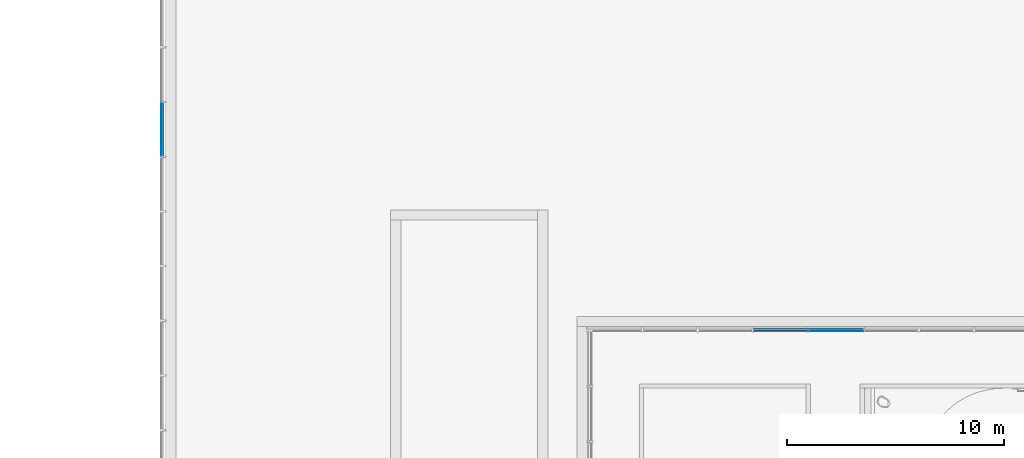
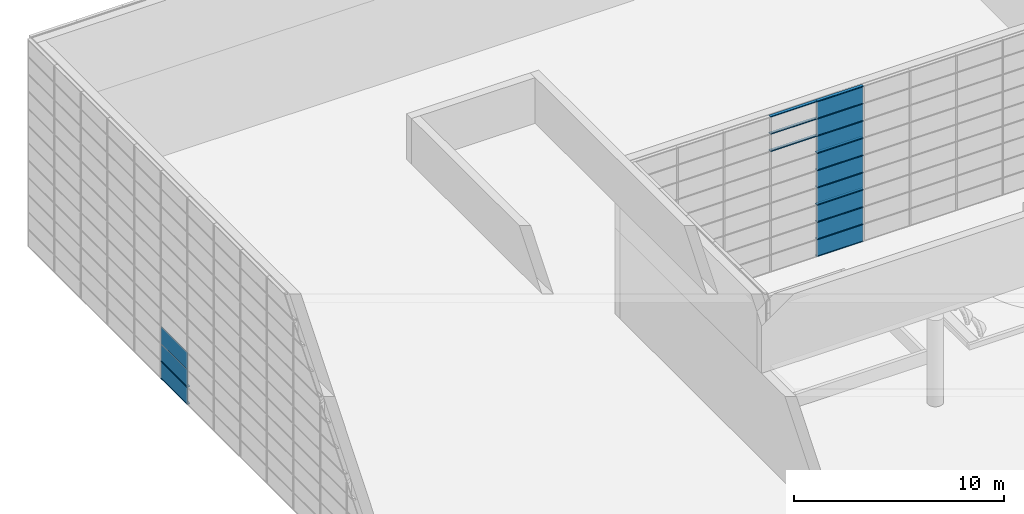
# One storey, part 32 of 105: 29 building element parts, 4 elements without a shape of their own.
"""IFC4 building model written with IfcOpenShell, lengths in millimetres."""

from ifc_helpers import new_model, entity, si_unit, converted_unit, derived_unit, direction, frame, origin_with_axes, place, context, subcontext, project, spatial, triangles, material, element, aggregate, save


model = new_model("IFC4")

# Units and contexts
model_context = context("Model", 3, precision=1e-05, world=origin_with_axes(), true_north=direction((0.0, 1.0)))
body_context = subcontext(model_context, "Body", "Model", "MODEL_VIEW")
ifc_project = project(units=[si_unit("LENGTHUNIT", "METRE", prefix="MILLI"), si_unit("AREAUNIT", "SQUARE_METRE"), si_unit("VOLUMEUNIT", "CUBIC_METRE"), converted_unit("PLANEANGLEUNIT", "DEGREE", entity("IfcLengthMeasure", 0.017453), si_unit("PLANEANGLEUNIT", "RADIAN"), dimensions=[0, 0, 0, 0, 0, 0, 0]), si_unit("SOLIDANGLEUNIT", "STERADIAN"), si_unit("MASSUNIT", "GRAM"), si_unit("TIMEUNIT", "SECOND"), si_unit("THERMODYNAMICTEMPERATUREUNIT", "DEGREE_CELSIUS"), si_unit("LUMINOUSINTENSITYUNIT", "LUMEN"), si_unit("POWERUNIT", "WATT"), derived_unit("THERMALTRANSMITTANCEUNIT", [(si_unit("POWERUNIT", "WATT"), 1), (si_unit("THERMODYNAMICTEMPERATUREUNIT", "KELVIN"), -1), (si_unit("AREAUNIT", "SQUARE_METRE"), -1)])], contexts=[model_context])

# Site, building, storey
site_placement = place(None, origin_with_axes())
site = spatial("IfcSite", under=ifc_project, at=site_placement, Name="Default Site", CompositionType="ELEMENT")
building_placement = place(site_placement, origin_with_axes())
building = spatial("IfcBuilding", under=site, at=building_placement, Name="Default Building", CompositionType="ELEMENT")
storey_placement = place(building_placement, origin_with_axes())
storey = spatial("IfcBuildingStorey", under=building, at=storey_placement, Name="OG - Story", CompositionType="ELEMENT", Elevation=0.0)

# Curtain wall, building element parts
curtain_wall_1_placement = place(storey_placement, origin_with_axes())
curtain_wall_1 = element("IfcCurtainWall", 1, at=curtain_wall_1_placement, inside=storey, Name="Fassade-003", PredefinedType="NOTDEFINED")
ifc_material_1 = material(Name="Normalglas")
building_element_part_1_placement = place(curtain_wall_1_placement, frame((31551.391327, -51326.104944, 0.0), z_axis=(0.0, 0.0, 1.0), x_axis=(1.0, 0.0, 0.0)))
building_element_part_1 = element("IfcBuildingElementPart", 2, at=building_element_part_1_placement, material=ifc_material_1, Name="Normalglas", PredefinedType="NOTDEFINED", context=body_context, shape_type="Tessellation", body=[
    triangles([(15.0, 34095.263, 995.0), (-14.999, 34095.263, 995.0), (-14.999, 31588.947, 995.0), (15.0, 31588.947, 995.0), (15.0, 34095.263, 5.0), (-14.999, 34095.263, 5.0), (-14.999, 31588.947, 5.0), (15.0, 31588.947, 5.0)], [[1, 2, 3], [1, 3, 4], [5, 6, 2], [5, 2, 1], [2, 6, 7], [2, 7, 3], [4, 3, 7], [4, 7, 8], [1, 4, 8], [1, 8, 5], [8, 7, 6], [8, 6, 5]], closed=False),
])
building_element_part_2_placement = place(curtain_wall_1_placement, frame((31551.391327, -51326.104944, 0.0), z_axis=(0.0, 0.0, 1.0), x_axis=(1.0, 0.0, 0.0)))
building_element_part_2 = element("IfcBuildingElementPart", 3, at=building_element_part_2_placement, material=ifc_material_1, Name="Normalglas", PredefinedType="NOTDEFINED", context=body_context, shape_type="Tessellation", body=[
    triangles([(15.0, 34095.263, 1995.0), (-14.999, 34095.263, 1995.0), (-14.999, 31588.947, 1995.0), (15.0, 31588.947, 1995.0), (15.0, 34095.263, 1005.0), (-14.999, 34095.263, 1005.0), (-14.999, 31588.947, 1005.0), (15.0, 31588.947, 1005.0)], [[1, 2, 3], [1, 3, 4], [5, 6, 2], [5, 2, 1], [2, 6, 7], [2, 7, 3], [4, 3, 7], [4, 7, 8], [1, 4, 8], [1, 8, 5], [8, 7, 6], [8, 6, 5]], closed=False),
])
building_element_part_3_placement = place(curtain_wall_1_placement, frame((31551.391327, -51326.104944, 0.0), z_axis=(0.0, 0.0, 1.0), x_axis=(1.0, 0.0, 0.0)))
building_element_part_3 = element("IfcBuildingElementPart", 4, at=building_element_part_3_placement, material=ifc_material_1, Name="Normalglas", PredefinedType="NOTDEFINED", context=body_context, shape_type="Tessellation", body=[
    triangles([(15.0, 34095.263, 2995.0), (-14.999, 34095.263, 2995.0), (-14.999, 31588.947, 2995.0), (15.0, 31588.947, 2995.0), (15.0, 34095.263, 2005.0), (-14.999, 34095.263, 2005.0), (-14.999, 31588.947, 2005.0), (15.0, 31588.947, 2005.0)], [[1, 2, 3], [1, 3, 4], [5, 6, 2], [5, 2, 1], [2, 6, 7], [2, 7, 3], [4, 3, 7], [4, 7, 8], [1, 4, 8], [1, 8, 5], [8, 7, 6], [8, 6, 5]], closed=False),
])
ifc_material_2 = material(Name="Blech")
building_element_part_4_placement = place(curtain_wall_1_placement, frame((31551.391327, -51326.104944, 0.0), z_axis=(0.0, 0.0, 1.0), x_axis=(1.0, 0.0, 0.0)))
building_element_part_4 = element("IfcBuildingElementPart", 5, at=building_element_part_4_placement, material=ifc_material_2, Name="Blech", PredefinedType="NOTDEFINED", context=body_context, shape_type="Tessellation", body=[
    triangles([(15.0, 34105.263, 25.0), (133.0, 34105.263, 25.0), (15.0, 34105.263, 5.0), (133.0, 34105.263, -24.999), (-14.999, 34105.263, 5.0), (-34.999, 34105.263, -24.999), (-34.999, 34105.263, 25.0), (-14.999, 34105.263, 25.0), (15.0, 31578.947, 5.0), (15.0, 31578.947, 25.0), (133.0, 31578.947, 25.0), (133.0, 31578.947, -24.999), (-34.999, 31578.947, -24.999), (-34.999, 31578.947, 25.0), (-14.999, 31578.947, 25.0), (-14.999, 31578.947, 5.0)], [[1, 2, 3], [3, 2, 4], [3, 4, 5], [5, 4, 6], [5, 6, 7], [5, 7, 8], [3, 9, 10], [3, 10, 1], [10, 11, 2], [10, 2, 1], [11, 12, 4], [11, 4, 2], [12, 13, 6], [12, 6, 4], [13, 14, 7], [13, 7, 6], [8, 7, 14], [8, 14, 15], [15, 16, 5], [15, 5, 8], [5, 16, 9], [5, 9, 3], [16, 9, 12], [16, 12, 13], [16, 13, 14], [16, 14, 15], [11, 12, 9], [11, 9, 10]], closed=False),
])
building_element_part_5_placement = place(curtain_wall_1_placement, frame((31551.391327, -51326.104944, 0.0), z_axis=(0.0, 0.0, 1.0), x_axis=(1.0, 0.0, 0.0)))
building_element_part_5 = element("IfcBuildingElementPart", 6, at=building_element_part_5_placement, material=ifc_material_2, Name="Blech", PredefinedType="NOTDEFINED", context=body_context, shape_type="Tessellation", body=[
    triangles([(-14.999, 34105.263, 1025.0), (-34.999, 34105.263, 1025.0), (-14.999, 34105.263, 1005.0), (-14.999, 34105.263, 995.0), (15.0, 34105.263, 1005.0), (133.0, 34105.263, 1025.0), (15.0, 34105.263, 1025.0), (-34.999, 34105.263, 975.0), (-14.999, 34105.263, 975.0), (15.0, 34105.263, 995.0), (15.0, 34105.263, 975.0), (133.0, 34105.263, 975.0), (15.0, 31578.947, 995.0), (-14.999, 31578.947, 995.0), (-14.999, 31578.947, 975.0), (-34.999, 31578.947, 975.0), (-34.999, 31578.947, 1025.0), (-14.999, 31578.947, 1025.0), (-14.999, 31578.947, 1005.0), (15.0, 31578.947, 1005.0), (15.0, 31578.947, 1025.0), (133.0, 31578.947, 1025.0), (133.0, 31578.947, 975.0), (15.0, 31578.947, 975.0)], [[1, 2, 3], [3, 2, 4], [3, 4, 5], [5, 4, 6], [5, 6, 7], [8, 9, 4], [8, 4, 2], [6, 4, 10], [6, 10, 11], [6, 11, 12], [10, 13, 14], [10, 14, 4], [4, 14, 15], [4, 15, 9], [15, 16, 8], [15, 8, 9], [8, 16, 17], [8, 17, 2], [18, 1, 2], [18, 2, 17], [1, 18, 19], [1, 19, 3], [5, 3, 19], [5, 19, 20], [7, 5, 20], [7, 20, 21], [7, 21, 22], [7, 22, 6], [6, 22, 23], [6, 23, 12], [11, 12, 23], [11, 23, 24], [11, 24, 13], [11, 13, 10], [21, 22, 20], [20, 22, 13], [20, 13, 19], [19, 13, 14], [19, 14, 17], [17, 14, 15], [17, 15, 16], [23, 24, 13], [23, 13, 22], [19, 17, 18]], closed=False),
])
aggregate(curtain_wall_1, [building_element_part_1, building_element_part_2, building_element_part_3, building_element_part_4, building_element_part_5])

curtain_wall_2_placement = place(storey_placement, origin_with_axes())
curtain_wall_2 = element("IfcCurtainWall", 7, at=curtain_wall_2_placement, inside=storey, Name="Fassade-005", PredefinedType="NOTDEFINED")
building_element_part_6_placement = place(curtain_wall_2_placement, frame((52496.845873, -27789.262838, 3000.0), z_axis=(0.0, 0.0, 1.0), x_axis=(1.0, 0.0, 0.0)))
building_element_part_6 = element("IfcBuildingElementPart", 8, at=building_element_part_6_placement, material=ifc_material_1, Name="Normalglas", PredefinedType="NOTDEFINED", context=body_context, shape_type="Tessellation", body=[
    triangles([(11469.091, 15.0, 995.0), (8938.182, 15.0, 995.0), (8938.182, -14.999, 995.0), (11469.091, -14.999, 995.0), (11469.091, 15.0, 5.0), (8938.182, 15.0, 5.0), (8938.182, -14.999, 5.0), (11469.091, -14.999, 5.0)], [[1, 2, 3], [1, 3, 4], [1, 5, 6], [1, 6, 2], [2, 6, 7], [2, 7, 3], [4, 3, 7], [4, 7, 8], [5, 1, 4], [5, 4, 8], [6, 5, 8], [6, 8, 7]], closed=False),
])
building_element_part_7_placement = place(curtain_wall_2_placement, frame((52496.845873, -27789.262838, 3000.0), z_axis=(0.0, 0.0, 1.0), x_axis=(1.0, 0.0, 0.0)))
building_element_part_7 = element("IfcBuildingElementPart", 9, at=building_element_part_7_placement, material=ifc_material_1, Name="Normalglas", PredefinedType="NOTDEFINED", context=body_context, shape_type="Tessellation", body=[
    triangles([(11469.091, 15.0, 1995.0), (8938.182, 15.0, 1995.0), (8938.182, -14.999, 1995.0), (11469.091, -14.999, 1995.0), (11469.091, 15.0, 1005.0), (8938.182, 15.0, 1005.0), (8938.182, -14.999, 1005.0), (11469.091, -14.999, 1005.0)], [[1, 2, 3], [1, 3, 4], [1, 5, 6], [1, 6, 2], [2, 6, 7], [2, 7, 3], [4, 3, 7], [4, 7, 8], [5, 1, 4], [5, 4, 8], [6, 5, 8], [6, 8, 7]], closed=False),
])
building_element_part_8_placement = place(curtain_wall_2_placement, frame((52496.845873, -27789.262838, 3000.0), z_axis=(0.0, 0.0, 1.0), x_axis=(1.0, 0.0, 0.0)))
building_element_part_8 = element("IfcBuildingElementPart", 10, at=building_element_part_8_placement, material=ifc_material_1, Name="Normalglas", PredefinedType="NOTDEFINED", context=body_context, shape_type="Tessellation", body=[
    triangles([(11469.091, 15.0, 2995.0), (8938.182, 15.0, 2995.0), (8938.182, -14.999, 2995.0), (11469.091, -14.999, 2995.0), (11469.091, 15.0, 2005.0), (8938.182, 15.0, 2005.0), (8938.182, -14.999, 2005.0), (11469.091, -14.999, 2005.0)], [[1, 2, 3], [1, 3, 4], [1, 5, 6], [1, 6, 2], [2, 6, 7], [2, 7, 3], [4, 3, 7], [4, 7, 8], [5, 1, 4], [5, 4, 8], [6, 5, 8], [6, 8, 7]], closed=False),
])
building_element_part_9_placement = place(curtain_wall_2_placement, frame((52496.845873, -27789.262838, 3000.0), z_axis=(0.0, 0.0, 1.0), x_axis=(1.0, 0.0, 0.0)))
building_element_part_9 = element("IfcBuildingElementPart", 11, at=building_element_part_9_placement, material=ifc_material_2, Name="Blech", PredefinedType="NOTDEFINED", context=body_context, shape_type="Tessellation", body=[
    triangles([(11479.091, 15.0, 25.0), (11479.091, 133.0, 25.0), (11479.091, 15.0, 5.0), (11479.091, 133.0, -24.999), (11479.091, -14.999, 5.0), (11479.091, -34.999, -24.999), (11479.091, -14.999, 25.0), (11479.091, -34.999, 25.0), (8928.182, 15.0, 5.0), (8928.182, -14.999, 5.0), (8928.182, -14.999, 25.0), (8928.182, -34.999, 25.0), (8928.182, -34.999, -24.999), (8928.182, 133.0, -24.999), (8928.182, 133.0, 25.0), (8928.182, 15.0, 25.0)], [[1, 2, 3], [3, 2, 4], [3, 4, 5], [5, 4, 6], [5, 6, 7], [7, 6, 8], [5, 3, 9], [5, 9, 10], [11, 7, 5], [11, 5, 10], [7, 11, 12], [7, 12, 8], [13, 6, 8], [13, 8, 12], [14, 4, 6], [14, 6, 13], [15, 2, 4], [15, 4, 14], [16, 1, 2], [16, 2, 15], [3, 1, 16], [3, 16, 9], [16, 15, 9], [9, 15, 14], [9, 14, 10], [10, 14, 13], [10, 13, 11], [11, 13, 12]], closed=False),
])
building_element_part_10_placement = place(curtain_wall_2_placement, frame((52496.845873, -27789.262838, 3000.0), z_axis=(0.0, 0.0, 1.0), x_axis=(1.0, 0.0, 0.0)))
building_element_part_10 = element("IfcBuildingElementPart", 12, at=building_element_part_10_placement, material=ifc_material_2, Name="Blech", PredefinedType="NOTDEFINED", context=body_context, shape_type="Tessellation", body=[
    triangles([(11479.091, 133.0, 1025.0), (11479.091, 15.0, 1025.0), (11479.091, 133.0, 975.0), (11479.091, 15.0, 1005.0), (11479.091, 15.0, 995.0), (11479.091, -14.999, 1005.0), (11479.091, -14.999, 995.0), (11479.091, -14.999, 975.0), (11479.091, -14.999, 1025.0), (11479.091, -34.999, 1025.0), (11479.091, -34.999, 975.0), (11479.091, 15.0, 975.0), (8928.182, 15.0, 995.0), (8928.182, 15.0, 975.0), (8928.182, 133.0, 975.0), (8928.182, 133.0, 1025.0), (8928.182, 15.0, 1025.0), (8928.182, 15.0, 1005.0), (8928.182, -14.999, 1005.0), (8928.182, -14.999, 1025.0), (8928.182, -34.999, 1025.0), (8928.182, -34.999, 975.0), (8928.182, -14.999, 975.0), (8928.182, -14.999, 995.0)], [[1, 2, 3], [3, 2, 4], [3, 4, 5], [5, 4, 6], [5, 6, 7], [8, 9, 10], [8, 10, 11], [3, 5, 12], [12, 5, 13], [12, 13, 14], [12, 14, 15], [12, 15, 3], [1, 3, 15], [1, 15, 16], [2, 1, 16], [2, 16, 17], [2, 17, 18], [2, 18, 4], [4, 18, 19], [4, 19, 6], [9, 6, 19], [9, 19, 20], [20, 21, 10], [20, 10, 9], [11, 10, 21], [11, 21, 22], [23, 8, 11], [23, 11, 22], [7, 8, 23], [7, 23, 24], [5, 7, 24], [5, 24, 13], [15, 14, 16], [16, 14, 13], [16, 13, 18], [18, 13, 24], [18, 24, 19], [20, 23, 22], [20, 22, 21], [16, 18, 17]], closed=False),
])
building_element_part_11_placement = place(curtain_wall_2_placement, frame((52496.845873, -27789.262838, 3000.0), z_axis=(0.0, 0.0, 1.0), x_axis=(1.0, 0.0, 0.0)))
building_element_part_11 = element("IfcBuildingElementPart", 13, at=building_element_part_11_placement, material=ifc_material_2, Name="Blech", PredefinedType="NOTDEFINED", context=body_context, shape_type="Tessellation", body=[
    triangles([(11479.091, 133.0, 2025.0), (11479.091, 15.0, 2025.0), (11479.091, 133.0, 1975.0), (11479.091, 15.0, 2005.0), (11479.091, 15.0, 1995.0), (11479.091, -14.999, 2005.0), (11479.091, -14.999, 1995.0), (11479.091, -14.999, 1975.0), (11479.091, -14.999, 2025.0), (11479.091, -34.999, 2025.0), (11479.091, -34.999, 1975.0), (11479.091, 15.0, 1975.0), (8928.182, 15.0, 1995.0), (8928.182, 15.0, 1975.0), (8928.182, 133.0, 1975.0), (8928.182, 133.0, 2025.0), (8928.182, 15.0, 2025.0), (8928.182, 15.0, 2005.0), (8928.182, -14.999, 2005.0), (8928.182, -14.999, 2025.0), (8928.182, -34.999, 2025.0), (8928.182, -34.999, 1975.0), (8928.182, -14.999, 1975.0), (8928.182, -14.999, 1995.0)], [[1, 2, 3], [3, 2, 4], [3, 4, 5], [5, 4, 6], [5, 6, 7], [8, 9, 10], [8, 10, 11], [3, 5, 12], [12, 5, 13], [12, 13, 14], [12, 14, 15], [12, 15, 3], [1, 3, 15], [1, 15, 16], [2, 1, 16], [2, 16, 17], [2, 17, 18], [2, 18, 4], [4, 18, 19], [4, 19, 6], [9, 6, 19], [9, 19, 20], [20, 21, 10], [20, 10, 9], [11, 10, 21], [11, 21, 22], [23, 8, 11], [23, 11, 22], [7, 8, 23], [7, 23, 24], [5, 7, 24], [5, 24, 13], [15, 14, 16], [16, 14, 13], [16, 13, 18], [18, 13, 24], [18, 24, 19], [20, 23, 22], [20, 22, 21], [16, 18, 17]], closed=False),
])
building_element_part_12_placement = place(curtain_wall_2_placement, frame((52496.845873, -27789.262838, 3000.0), z_axis=(0.0, 0.0, 1.0), x_axis=(1.0, 0.0, 0.0)))
building_element_part_12 = element("IfcBuildingElementPart", 14, at=building_element_part_12_placement, material=ifc_material_2, Name="Blech", PredefinedType="NOTDEFINED", context=body_context, shape_type="Tessellation", body=[
    triangles([(11479.091, 15.0, 2975.0), (11479.091, 133.0, 2975.0), (11479.091, 15.0, 2995.0), (11479.091, 133.0, 3025.0), (11479.091, -14.999, 2995.0), (11479.091, -34.999, 3025.0), (11479.091, -14.999, 2975.0), (11479.091, -34.999, 2975.0), (8928.182, 15.0, 2995.0), (8928.182, 15.0, 2975.0), (8928.182, 133.0, 2975.0), (8928.182, 133.0, 3025.0), (8928.182, -34.999, 3025.0), (8928.182, -34.999, 2975.0), (8928.182, -14.999, 2975.0), (8928.182, -14.999, 2995.0)], [[1, 2, 3], [3, 2, 4], [3, 4, 5], [5, 4, 6], [5, 6, 7], [7, 6, 8], [3, 9, 10], [3, 10, 1], [10, 11, 2], [10, 2, 1], [11, 12, 4], [11, 4, 2], [12, 13, 6], [12, 6, 4], [13, 14, 8], [13, 8, 6], [7, 8, 14], [7, 14, 15], [15, 16, 5], [15, 5, 7], [5, 16, 9], [5, 9, 3], [10, 11, 9], [9, 11, 12], [9, 12, 16], [16, 12, 13], [16, 13, 15], [15, 13, 14]], closed=False),
])
aggregate(curtain_wall_2, [building_element_part_6, building_element_part_7, building_element_part_8, building_element_part_9, building_element_part_10, building_element_part_11, building_element_part_12])

curtain_wall_3_placement = place(storey_placement, origin_with_axes())
curtain_wall_3 = element("IfcCurtainWall", 15, at=curtain_wall_3_placement, inside=storey, Name="Fassade-005", PredefinedType="NOTDEFINED")
building_element_part_13_placement = place(curtain_wall_3_placement, frame((52496.845873, -27789.262838, 6000.0), z_axis=(0.0, 0.0, 1.0), x_axis=(1.0, 0.0, 0.0)))
building_element_part_13 = element("IfcBuildingElementPart", 16, at=building_element_part_13_placement, material=ifc_material_1, Name="Normalglas", PredefinedType="NOTDEFINED", context=body_context, shape_type="Tessellation", body=[
    triangles([(11469.091, 15.0, 995.0), (8938.182, 15.0, 995.0), (8938.182, -14.999, 995.0), (11469.091, -14.999, 995.0), (11469.091, 15.0, 5.0), (8938.182, 15.0, 5.0), (8938.182, -14.999, 5.0), (11469.091, -14.999, 5.0)], [[1, 2, 3], [1, 3, 4], [1, 5, 6], [1, 6, 2], [2, 6, 7], [2, 7, 3], [4, 3, 7], [4, 7, 8], [5, 1, 4], [5, 4, 8], [6, 5, 8], [6, 8, 7]], closed=False),
])
building_element_part_14_placement = place(curtain_wall_3_placement, frame((52496.845873, -27789.262838, 6000.0), z_axis=(0.0, 0.0, 1.0), x_axis=(1.0, 0.0, 0.0)))
building_element_part_14 = element("IfcBuildingElementPart", 17, at=building_element_part_14_placement, material=ifc_material_1, Name="Normalglas", PredefinedType="NOTDEFINED", context=body_context, shape_type="Tessellation", body=[
    triangles([(11469.091, 15.0, 1995.0), (8938.182, 15.0, 1995.0), (8938.182, -14.999, 1995.0), (11469.091, -14.999, 1995.0), (11469.091, 15.0, 1005.0), (8938.182, 15.0, 1005.0), (8938.182, -14.999, 1005.0), (11469.091, -14.999, 1005.0)], [[1, 2, 3], [1, 3, 4], [1, 5, 6], [1, 6, 2], [2, 6, 7], [2, 7, 3], [4, 3, 7], [4, 7, 8], [5, 1, 4], [5, 4, 8], [6, 5, 8], [6, 8, 7]], closed=False),
])
building_element_part_15_placement = place(curtain_wall_3_placement, frame((52496.845873, -27789.262838, 6000.0), z_axis=(0.0, 0.0, 1.0), x_axis=(1.0, 0.0, 0.0)))
building_element_part_15 = element("IfcBuildingElementPart", 18, at=building_element_part_15_placement, material=ifc_material_1, Name="Normalglas", PredefinedType="NOTDEFINED", context=body_context, shape_type="Tessellation", body=[
    triangles([(11469.091, 15.0, 2995.0), (8938.182, 15.0, 2995.0), (8938.182, -14.999, 2995.0), (11469.091, -14.999, 2995.0), (11469.091, 15.0, 2005.0), (8938.182, 15.0, 2005.0), (8938.182, -14.999, 2005.0), (11469.091, -14.999, 2005.0)], [[1, 2, 3], [1, 3, 4], [1, 5, 6], [1, 6, 2], [2, 6, 7], [2, 7, 3], [4, 3, 7], [4, 7, 8], [5, 1, 4], [5, 4, 8], [6, 5, 8], [6, 8, 7]], closed=False),
])
building_element_part_16_placement = place(curtain_wall_3_placement, frame((52496.845873, -27789.262838, 6000.0), z_axis=(0.0, 0.0, 1.0), x_axis=(1.0, 0.0, 0.0)))
building_element_part_16 = element("IfcBuildingElementPart", 19, at=building_element_part_16_placement, material=ifc_material_2, Name="Blech", PredefinedType="NOTDEFINED", context=body_context, shape_type="Tessellation", body=[
    triangles([(11479.091, 15.0, 25.0), (11479.091, 133.0, 25.0), (11479.091, 15.0, 5.0), (11479.091, 133.0, -24.999), (11479.091, -14.999, 5.0), (11479.091, -34.999, -24.999), (11479.091, -14.999, 25.0), (11479.091, -34.999, 25.0), (8928.182, 15.0, 5.0), (8928.182, -14.999, 5.0), (8928.182, -14.999, 25.0), (8928.182, -34.999, 25.0), (8928.182, -34.999, -24.999), (8928.182, 133.0, -24.999), (8928.182, 133.0, 25.0), (8928.182, 15.0, 25.0)], [[1, 2, 3], [3, 2, 4], [3, 4, 5], [5, 4, 6], [5, 6, 7], [7, 6, 8], [5, 3, 9], [5, 9, 10], [11, 7, 5], [11, 5, 10], [7, 11, 12], [7, 12, 8], [13, 6, 8], [13, 8, 12], [14, 4, 6], [14, 6, 13], [15, 2, 4], [15, 4, 14], [16, 1, 2], [16, 2, 15], [3, 1, 16], [3, 16, 9], [16, 15, 9], [9, 15, 14], [9, 14, 10], [10, 14, 13], [10, 13, 11], [11, 13, 12]], closed=False),
])
building_element_part_17_placement = place(curtain_wall_3_placement, frame((52496.845873, -27789.262838, 6000.0), z_axis=(0.0, 0.0, 1.0), x_axis=(1.0, 0.0, 0.0)))
building_element_part_17 = element("IfcBuildingElementPart", 20, at=building_element_part_17_placement, material=ifc_material_2, Name="Blech", PredefinedType="NOTDEFINED", context=body_context, shape_type="Tessellation", body=[
    triangles([(11479.091, 133.0, 1025.0), (11479.091, 15.0, 1025.0), (11479.091, 133.0, 975.0), (11479.091, 15.0, 1005.0), (11479.091, 15.0, 995.0), (11479.091, -14.999, 1005.0), (11479.091, -14.999, 995.0), (11479.091, -14.999, 975.0), (11479.091, -14.999, 1025.0), (11479.091, -34.999, 1025.0), (11479.091, -34.999, 975.0), (11479.091, 15.0, 975.0), (8928.182, 15.0, 995.0), (8928.182, 15.0, 975.0), (8928.182, 133.0, 975.0), (8928.182, 133.0, 1025.0), (8928.182, 15.0, 1025.0), (8928.182, 15.0, 1005.0), (8928.182, -14.999, 1005.0), (8928.182, -14.999, 1025.0), (8928.182, -34.999, 1025.0), (8928.182, -34.999, 975.0), (8928.182, -14.999, 975.0), (8928.182, -14.999, 995.0)], [[1, 2, 3], [3, 2, 4], [3, 4, 5], [5, 4, 6], [5, 6, 7], [8, 9, 10], [8, 10, 11], [3, 5, 12], [12, 5, 13], [12, 13, 14], [12, 14, 15], [12, 15, 3], [1, 3, 15], [1, 15, 16], [2, 1, 16], [2, 16, 17], [2, 17, 18], [2, 18, 4], [4, 18, 19], [4, 19, 6], [9, 6, 19], [9, 19, 20], [20, 21, 10], [20, 10, 9], [11, 10, 21], [11, 21, 22], [23, 8, 11], [23, 11, 22], [7, 8, 23], [7, 23, 24], [5, 7, 24], [5, 24, 13], [15, 14, 16], [16, 14, 13], [16, 13, 18], [18, 13, 24], [18, 24, 19], [20, 23, 22], [20, 22, 21], [16, 18, 17]], closed=False),
])
building_element_part_18_placement = place(curtain_wall_3_placement, frame((52496.845873, -27789.262838, 6000.0), z_axis=(0.0, 0.0, 1.0), x_axis=(1.0, 0.0, 0.0)))
building_element_part_18 = element("IfcBuildingElementPart", 21, at=building_element_part_18_placement, material=ifc_material_2, Name="Blech", PredefinedType="NOTDEFINED", context=body_context, shape_type="Tessellation", body=[
    triangles([(11479.091, 133.0, 2025.0), (11479.091, 15.0, 2025.0), (11479.091, 133.0, 1975.0), (11479.091, 15.0, 2005.0), (11479.091, 15.0, 1995.0), (11479.091, -14.999, 2005.0), (11479.091, -14.999, 1995.0), (11479.091, -14.999, 1975.0), (11479.091, -14.999, 2025.0), (11479.091, -34.999, 2025.0), (11479.091, -34.999, 1975.0), (11479.091, 15.0, 1975.0), (8928.182, 15.0, 1995.0), (8928.182, 15.0, 1975.0), (8928.182, 133.0, 1975.0), (8928.182, 133.0, 2025.0), (8928.182, 15.0, 2025.0), (8928.182, 15.0, 2005.0), (8928.182, -14.999, 2005.0), (8928.182, -14.999, 2025.0), (8928.182, -34.999, 2025.0), (8928.182, -34.999, 1975.0), (8928.182, -14.999, 1975.0), (8928.182, -14.999, 1995.0)], [[1, 2, 3], [3, 2, 4], [3, 4, 5], [5, 4, 6], [5, 6, 7], [8, 9, 10], [8, 10, 11], [3, 5, 12], [12, 5, 13], [12, 13, 14], [12, 14, 15], [12, 15, 3], [1, 3, 15], [1, 15, 16], [2, 1, 16], [2, 16, 17], [2, 17, 18], [2, 18, 4], [4, 18, 19], [4, 19, 6], [9, 6, 19], [9, 19, 20], [20, 21, 10], [20, 10, 9], [11, 10, 21], [11, 21, 22], [23, 8, 11], [23, 11, 22], [7, 8, 23], [7, 23, 24], [5, 7, 24], [5, 24, 13], [15, 14, 16], [16, 14, 13], [16, 13, 18], [18, 13, 24], [18, 24, 19], [20, 23, 22], [20, 22, 21], [16, 18, 17]], closed=False),
])
building_element_part_19_placement = place(curtain_wall_3_placement, frame((52496.845873, -27789.262838, 6000.0), z_axis=(0.0, 0.0, 1.0), x_axis=(1.0, 0.0, 0.0)))
building_element_part_19 = element("IfcBuildingElementPart", 22, at=building_element_part_19_placement, material=ifc_material_2, Name="Blech", PredefinedType="NOTDEFINED", context=body_context, shape_type="Tessellation", body=[
    triangles([(11479.091, 15.0, 2975.0), (11479.091, 133.0, 2975.0), (11479.091, 15.0, 2995.0), (11479.091, 133.0, 3025.0), (11479.091, -14.999, 2995.0), (11479.091, -34.999, 3025.0), (11479.091, -14.999, 2975.0), (11479.091, -34.999, 2975.0), (8928.182, 15.0, 2995.0), (8928.182, 15.0, 2975.0), (8928.182, 133.0, 2975.0), (8928.182, 133.0, 3025.0), (8928.182, -34.999, 3025.0), (8928.182, -34.999, 2975.0), (8928.182, -14.999, 2975.0), (8928.182, -14.999, 2995.0)], [[1, 2, 3], [3, 2, 4], [3, 4, 5], [5, 4, 6], [5, 6, 7], [7, 6, 8], [3, 9, 10], [3, 10, 1], [10, 11, 2], [10, 2, 1], [11, 12, 4], [11, 4, 2], [12, 13, 6], [12, 6, 4], [13, 14, 8], [13, 8, 6], [7, 8, 14], [7, 14, 15], [15, 16, 5], [15, 5, 7], [5, 16, 9], [5, 9, 3], [10, 11, 9], [9, 11, 12], [9, 12, 16], [16, 12, 13], [16, 13, 15], [15, 13, 14]], closed=False),
])
aggregate(curtain_wall_3, [building_element_part_13, building_element_part_14, building_element_part_15, building_element_part_16, building_element_part_17, building_element_part_18, building_element_part_19])

curtain_wall_4_placement = place(storey_placement, origin_with_axes())
curtain_wall_4 = element("IfcCurtainWall", 23, at=curtain_wall_4_placement, inside=storey, Name="Fassade-005", PredefinedType="NOTDEFINED")
building_element_part_20_placement = place(curtain_wall_4_placement, frame((52496.845873, -27789.262838, 9000.0), z_axis=(0.0, 0.0, 1.0), x_axis=(1.0, 0.0, 0.0)))
building_element_part_20 = element("IfcBuildingElementPart", 24, at=building_element_part_20_placement, material=ifc_material_1, Name="Normalglas", PredefinedType="NOTDEFINED", context=body_context, shape_type="Tessellation", body=[
    triangles([(11469.091, 15.0, 995.0), (8938.182, 15.0, 995.0), (8938.182, -14.999, 995.0), (11469.091, -14.999, 995.0), (11469.091, 15.0, 5.0), (8938.182, 15.0, 5.0), (8938.182, -14.999, 5.0), (11469.091, -14.999, 5.0)], [[1, 2, 3], [1, 3, 4], [1, 5, 6], [1, 6, 2], [2, 6, 7], [2, 7, 3], [4, 3, 7], [4, 7, 8], [5, 1, 4], [5, 4, 8], [6, 5, 8], [6, 8, 7]], closed=False),
])
building_element_part_21_placement = place(curtain_wall_4_placement, frame((52496.845873, -27789.262838, 9000.0), z_axis=(0.0, 0.0, 1.0), x_axis=(1.0, 0.0, 0.0)))
building_element_part_21 = element("IfcBuildingElementPart", 25, at=building_element_part_21_placement, material=ifc_material_1, Name="Normalglas", PredefinedType="NOTDEFINED", context=body_context, shape_type="Tessellation", body=[
    triangles([(11469.091, 15.0, 1995.0), (8938.182, 15.0, 1995.0), (8938.182, -14.999, 1995.0), (11469.091, -14.999, 1995.0), (11469.091, 15.0, 1005.0), (8938.182, 15.0, 1005.0), (8938.182, -14.999, 1005.0), (11469.091, -14.999, 1005.0)], [[1, 2, 3], [1, 3, 4], [1, 5, 6], [1, 6, 2], [2, 6, 7], [2, 7, 3], [4, 3, 7], [4, 7, 8], [5, 1, 4], [5, 4, 8], [6, 5, 8], [6, 8, 7]], closed=False),
])
building_element_part_22_placement = place(curtain_wall_4_placement, frame((52496.845873, -27789.262838, 9000.0), z_axis=(0.0, 0.0, 1.0), x_axis=(1.0, 0.0, 0.0)))
building_element_part_22 = element("IfcBuildingElementPart", 26, at=building_element_part_22_placement, material=ifc_material_1, Name="Normalglas", PredefinedType="NOTDEFINED", context=body_context, shape_type="Tessellation", body=[
    triangles([(11469.091, 15.0, 2995.0), (8938.182, 15.0, 2995.0), (8938.182, -14.999, 2995.0), (11469.091, -14.999, 2995.0), (11469.091, 15.0, 2005.0), (8938.182, 15.0, 2005.0), (8938.182, -14.999, 2005.0), (11469.091, -14.999, 2005.0)], [[1, 2, 3], [1, 3, 4], [1, 5, 6], [1, 6, 2], [2, 6, 7], [2, 7, 3], [4, 3, 7], [4, 7, 8], [5, 1, 4], [5, 4, 8], [6, 5, 8], [6, 8, 7]], closed=False),
])
building_element_part_23_placement = place(curtain_wall_4_placement, frame((52496.845873, -27789.262838, 9000.0), z_axis=(0.0, 0.0, 1.0), x_axis=(1.0, 0.0, 0.0)))
building_element_part_23 = element("IfcBuildingElementPart", 27, at=building_element_part_23_placement, material=ifc_material_2, Name="Blech", PredefinedType="NOTDEFINED", context=body_context, shape_type="Tessellation", body=[
    triangles([(11479.091, 15.0, 25.0), (11479.091, 133.0, 25.0), (11479.091, 15.0, 5.0), (11479.091, 133.0, -24.999), (11479.091, -14.999, 5.0), (11479.091, -34.999, -24.999), (11479.091, -14.999, 25.0), (11479.091, -34.999, 25.0), (8928.182, 15.0, 5.0), (8928.182, -14.999, 5.0), (8928.182, -14.999, 25.0), (8928.182, -34.999, 25.0), (8928.182, -34.999, -24.999), (8928.182, 133.0, -24.999), (8928.182, 133.0, 25.0), (8928.182, 15.0, 25.0)], [[1, 2, 3], [3, 2, 4], [3, 4, 5], [5, 4, 6], [5, 6, 7], [7, 6, 8], [5, 3, 9], [5, 9, 10], [11, 7, 5], [11, 5, 10], [7, 11, 12], [7, 12, 8], [13, 6, 8], [13, 8, 12], [14, 4, 6], [14, 6, 13], [15, 2, 4], [15, 4, 14], [16, 1, 2], [16, 2, 15], [3, 1, 16], [3, 16, 9], [16, 15, 9], [9, 15, 14], [9, 14, 10], [10, 14, 13], [10, 13, 11], [11, 13, 12]], closed=False),
])
building_element_part_24_placement = place(curtain_wall_4_placement, frame((52496.845873, -27789.262838, 9000.0), z_axis=(0.0, 0.0, 1.0), x_axis=(1.0, 0.0, 0.0)))
building_element_part_24 = element("IfcBuildingElementPart", 28, at=building_element_part_24_placement, material=ifc_material_2, Name="Blech", PredefinedType="NOTDEFINED", context=body_context, shape_type="Tessellation", body=[
    triangles([(8928.182, 133.0, 1025.0), (8928.182, 15.0, 1025.0), (8928.182, 133.0, 975.0), (8928.182, 15.0, 1005.0), (8928.182, 15.0, 995.0), (8928.182, -14.999, 1005.0), (8928.182, -14.999, 995.0), (8928.182, -14.999, 975.0), (8928.182, -14.999, 1025.0), (8928.182, -34.999, 1025.0), (8928.182, -34.999, 975.0), (8928.182, 15.0, 975.0), (6377.273, 15.0, 995.0), (6377.273, 15.0, 975.0), (6377.273, 133.0, 975.0), (6377.273, 133.0, 1025.0), (6377.273, 15.0, 1025.0), (6377.273, 15.0, 1005.0), (6377.273, -14.999, 1005.0), (6377.273, -14.999, 1025.0), (6377.273, -34.999, 1025.0), (6377.273, -34.999, 975.0), (6377.273, -14.999, 975.0), (6377.273, -14.999, 995.0)], [[1, 2, 3], [3, 2, 4], [3, 4, 5], [5, 4, 6], [5, 6, 7], [8, 9, 10], [8, 10, 11], [3, 5, 12], [12, 5, 13], [12, 13, 14], [12, 14, 15], [12, 15, 3], [1, 3, 15], [1, 15, 16], [2, 1, 16], [2, 16, 17], [2, 17, 18], [2, 18, 4], [4, 18, 19], [4, 19, 6], [9, 6, 19], [9, 19, 20], [20, 21, 10], [20, 10, 9], [11, 10, 21], [11, 21, 22], [23, 8, 11], [23, 11, 22], [7, 8, 23], [7, 23, 24], [5, 7, 24], [5, 24, 13], [15, 14, 16], [16, 14, 13], [16, 13, 18], [18, 13, 24], [18, 24, 19], [20, 23, 22], [20, 22, 21], [16, 18, 17]], closed=False),
])
building_element_part_25_placement = place(curtain_wall_4_placement, frame((52496.845873, -27789.262838, 9000.0), z_axis=(0.0, 0.0, 1.0), x_axis=(1.0, 0.0, 0.0)))
building_element_part_25 = element("IfcBuildingElementPart", 29, at=building_element_part_25_placement, material=ifc_material_2, Name="Blech", PredefinedType="NOTDEFINED", context=body_context, shape_type="Tessellation", body=[
    triangles([(11479.091, 133.0, 1025.0), (11479.091, 15.0, 1025.0), (11479.091, 133.0, 975.0), (11479.091, 15.0, 1005.0), (11479.091, 15.0, 995.0), (11479.091, -14.999, 1005.0), (11479.091, -14.999, 995.0), (11479.091, -14.999, 975.0), (11479.091, -14.999, 1025.0), (11479.091, -34.999, 1025.0), (11479.091, -34.999, 975.0), (11479.091, 15.0, 975.0), (8928.182, 15.0, 995.0), (8928.182, 15.0, 975.0), (8928.182, 133.0, 975.0), (8928.182, 133.0, 1025.0), (8928.182, 15.0, 1025.0), (8928.182, 15.0, 1005.0), (8928.182, -14.999, 1005.0), (8928.182, -14.999, 1025.0), (8928.182, -34.999, 1025.0), (8928.182, -34.999, 975.0), (8928.182, -14.999, 975.0), (8928.182, -14.999, 995.0)], [[1, 2, 3], [3, 2, 4], [3, 4, 5], [5, 4, 6], [5, 6, 7], [8, 9, 10], [8, 10, 11], [3, 5, 12], [12, 5, 13], [12, 13, 14], [12, 14, 15], [12, 15, 3], [1, 3, 15], [1, 15, 16], [2, 1, 16], [2, 16, 17], [2, 17, 18], [2, 18, 4], [4, 18, 19], [4, 19, 6], [9, 6, 19], [9, 19, 20], [20, 21, 10], [20, 10, 9], [11, 10, 21], [11, 21, 22], [23, 8, 11], [23, 11, 22], [7, 8, 23], [7, 23, 24], [5, 7, 24], [5, 24, 13], [15, 14, 16], [16, 14, 13], [16, 13, 18], [18, 13, 24], [18, 24, 19], [20, 23, 22], [20, 22, 21], [16, 18, 17]], closed=False),
])
building_element_part_26_placement = place(curtain_wall_4_placement, frame((52496.845873, -27789.262838, 9000.0), z_axis=(0.0, 0.0, 1.0), x_axis=(1.0, 0.0, 0.0)))
building_element_part_26 = element("IfcBuildingElementPart", 30, at=building_element_part_26_placement, material=ifc_material_2, Name="Blech", PredefinedType="NOTDEFINED", context=body_context, shape_type="Tessellation", body=[
    triangles([(8928.182, 133.0, 2025.0), (8928.182, 15.0, 2025.0), (8928.182, 133.0, 1975.0), (8928.182, 15.0, 2005.0), (8928.182, 15.0, 1995.0), (8928.182, -14.999, 2005.0), (8928.182, -14.999, 1995.0), (8928.182, -14.999, 1975.0), (8928.182, -14.999, 2025.0), (8928.182, -34.999, 2025.0), (8928.182, -34.999, 1975.0), (8928.182, 15.0, 1975.0), (6377.273, 15.0, 1995.0), (6377.273, 15.0, 1975.0), (6377.273, 133.0, 1975.0), (6377.273, 133.0, 2025.0), (6377.273, 15.0, 2025.0), (6377.273, 15.0, 2005.0), (6377.273, -14.999, 2005.0), (6377.273, -14.999, 2025.0), (6377.273, -34.999, 2025.0), (6377.273, -34.999, 1975.0), (6377.273, -14.999, 1975.0), (6377.273, -14.999, 1995.0)], [[1, 2, 3], [3, 2, 4], [3, 4, 5], [5, 4, 6], [5, 6, 7], [8, 9, 10], [8, 10, 11], [3, 5, 12], [12, 5, 13], [12, 13, 14], [12, 14, 15], [12, 15, 3], [1, 3, 15], [1, 15, 16], [2, 1, 16], [2, 16, 17], [2, 17, 18], [2, 18, 4], [4, 18, 19], [4, 19, 6], [9, 6, 19], [9, 19, 20], [20, 21, 10], [20, 10, 9], [11, 10, 21], [11, 21, 22], [23, 8, 11], [23, 11, 22], [7, 8, 23], [7, 23, 24], [5, 7, 24], [5, 24, 13], [15, 14, 16], [16, 14, 13], [16, 13, 18], [18, 13, 24], [18, 24, 19], [20, 23, 22], [20, 22, 21], [16, 18, 17]], closed=False),
])
building_element_part_27_placement = place(curtain_wall_4_placement, frame((52496.845873, -27789.262838, 9000.0), z_axis=(0.0, 0.0, 1.0), x_axis=(1.0, 0.0, 0.0)))
building_element_part_27 = element("IfcBuildingElementPart", 31, at=building_element_part_27_placement, material=ifc_material_2, Name="Blech", PredefinedType="NOTDEFINED", context=body_context, shape_type="Tessellation", body=[
    triangles([(8928.182, 15.0, 2975.0), (8928.182, 133.0, 2975.0), (8928.182, 15.0, 2995.0), (8928.182, 133.0, 3025.0), (8928.182, -14.999, 2995.0), (8928.182, -34.999, 3025.0), (8928.182, -14.999, 2975.0), (8928.182, -34.999, 2975.0), (6377.273, 15.0, 2995.0), (6377.273, 15.0, 2975.0), (6377.273, 133.0, 2975.0), (6377.273, 133.0, 3025.0), (6377.273, -34.999, 3025.0), (6377.273, -34.999, 2975.0), (6377.273, -14.999, 2975.0), (6377.273, -14.999, 2995.0)], [[1, 2, 3], [3, 2, 4], [3, 4, 5], [5, 4, 6], [5, 6, 7], [7, 6, 8], [3, 9, 10], [3, 10, 1], [10, 11, 2], [10, 2, 1], [11, 12, 4], [11, 4, 2], [12, 13, 6], [12, 6, 4], [13, 14, 8], [13, 8, 6], [7, 8, 14], [7, 14, 15], [15, 16, 5], [15, 5, 7], [5, 16, 9], [5, 9, 3], [10, 11, 9], [9, 11, 12], [9, 12, 16], [16, 12, 13], [16, 13, 15], [15, 13, 14]], closed=False),
])
building_element_part_28_placement = place(curtain_wall_4_placement, frame((52496.845873, -27789.262838, 9000.0), z_axis=(0.0, 0.0, 1.0), x_axis=(1.0, 0.0, 0.0)))
building_element_part_28 = element("IfcBuildingElementPart", 32, at=building_element_part_28_placement, material=ifc_material_2, Name="Blech", PredefinedType="NOTDEFINED", context=body_context, shape_type="Tessellation", body=[
    triangles([(11479.091, 133.0, 2025.0), (11479.091, 15.0, 2025.0), (11479.091, 133.0, 1975.0), (11479.091, 15.0, 2005.0), (11479.091, 15.0, 1995.0), (11479.091, -14.999, 2005.0), (11479.091, -14.999, 1995.0), (11479.091, -14.999, 1975.0), (11479.091, -14.999, 2025.0), (11479.091, -34.999, 2025.0), (11479.091, -34.999, 1975.0), (11479.091, 15.0, 1975.0), (8928.182, 15.0, 1995.0), (8928.182, 15.0, 1975.0), (8928.182, 133.0, 1975.0), (8928.182, 133.0, 2025.0), (8928.182, 15.0, 2025.0), (8928.182, 15.0, 2005.0), (8928.182, -14.999, 2005.0), (8928.182, -14.999, 2025.0), (8928.182, -34.999, 2025.0), (8928.182, -34.999, 1975.0), (8928.182, -14.999, 1975.0), (8928.182, -14.999, 1995.0)], [[1, 2, 3], [3, 2, 4], [3, 4, 5], [5, 4, 6], [5, 6, 7], [8, 9, 10], [8, 10, 11], [3, 5, 12], [12, 5, 13], [12, 13, 14], [12, 14, 15], [12, 15, 3], [1, 3, 15], [1, 15, 16], [2, 1, 16], [2, 16, 17], [2, 17, 18], [2, 18, 4], [4, 18, 19], [4, 19, 6], [9, 6, 19], [9, 19, 20], [20, 21, 10], [20, 10, 9], [11, 10, 21], [11, 21, 22], [23, 8, 11], [23, 11, 22], [7, 8, 23], [7, 23, 24], [5, 7, 24], [5, 24, 13], [15, 14, 16], [16, 14, 13], [16, 13, 18], [18, 13, 24], [18, 24, 19], [20, 23, 22], [20, 22, 21], [16, 18, 17]], closed=False),
])
building_element_part_29_placement = place(curtain_wall_4_placement, frame((52496.845873, -27789.262838, 9000.0), z_axis=(0.0, 0.0, 1.0), x_axis=(1.0, 0.0, 0.0)))
building_element_part_29 = element("IfcBuildingElementPart", 33, at=building_element_part_29_placement, material=ifc_material_2, Name="Blech", PredefinedType="NOTDEFINED", context=body_context, shape_type="Tessellation", body=[
    triangles([(11479.091, 15.0, 2975.0), (11479.091, 133.0, 2975.0), (11479.091, 15.0, 2995.0), (11479.091, 133.0, 3025.0), (11479.091, -14.999, 2995.0), (11479.091, -34.999, 3025.0), (11479.091, -14.999, 2975.0), (11479.091, -34.999, 2975.0), (8928.182, 15.0, 2995.0), (8928.182, 15.0, 2975.0), (8928.182, 133.0, 2975.0), (8928.182, 133.0, 3025.0), (8928.182, -34.999, 3025.0), (8928.182, -34.999, 2975.0), (8928.182, -14.999, 2975.0), (8928.182, -14.999, 2995.0)], [[1, 2, 3], [3, 2, 4], [3, 4, 5], [5, 4, 6], [5, 6, 7], [7, 6, 8], [3, 9, 10], [3, 10, 1], [10, 11, 2], [10, 2, 1], [11, 12, 4], [11, 4, 2], [12, 13, 6], [12, 6, 4], [13, 14, 8], [13, 8, 6], [7, 8, 14], [7, 14, 15], [15, 16, 5], [15, 5, 7], [5, 16, 9], [5, 9, 3], [10, 11, 9], [9, 11, 12], [9, 12, 16], [16, 12, 13], [16, 13, 15], [15, 13, 14]], closed=False),
])
aggregate(curtain_wall_4, [building_element_part_20, building_element_part_21, building_element_part_22, building_element_part_23, building_element_part_24, building_element_part_25, building_element_part_26, building_element_part_27, building_element_part_28, building_element_part_29])

save(model, "model.ifc")
